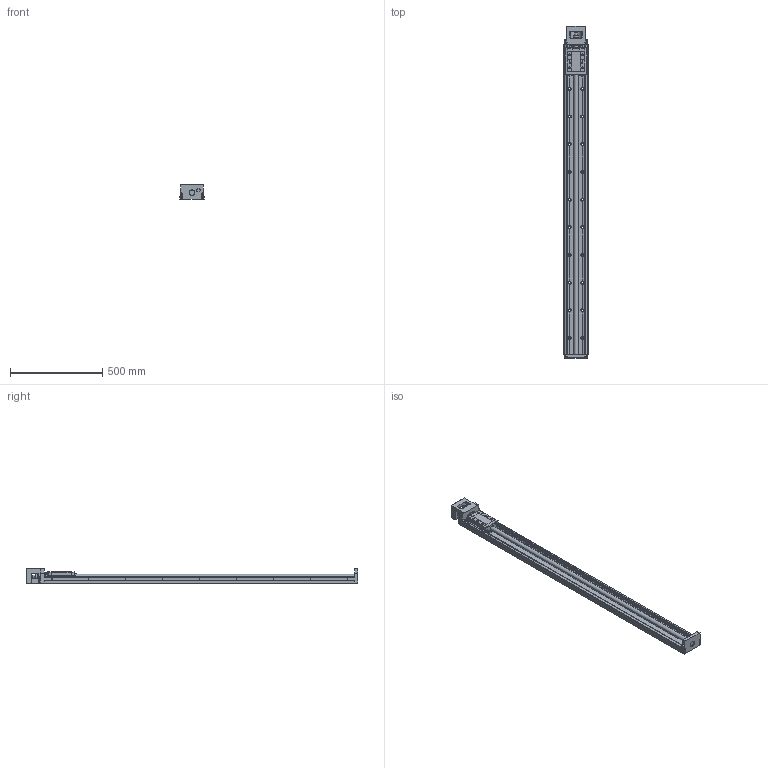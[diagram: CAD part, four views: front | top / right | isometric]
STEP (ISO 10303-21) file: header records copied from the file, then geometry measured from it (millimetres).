
FILE_DESCRIPTION(('no description'),'unknown implementation level');
FILE_NAME('KK13025P1680A1F0000_FILE_4.stp',' ',('HIWIN GmbH'),('CADClick - KiM GmbH - www.kimweb.de'),'unknown preprocess','ACIS','unknown authorization');
FILE_SCHEMA(('automotive_design'));
Length unit declared in the file: millimetre
Products named in the file (2): KK130_FILE; KK13025P1680A1F0000_FILE
Bounding box: 130 x 1798 x 83 mm (x, y, z)
Volume: 6586347.6 mm3; surface area: 948666.6 mm2
Topology: 2 solids, 7 shells, 843 faces, 2106 edges, 1365 vertices
Faces by surface type: plane 489, cylinder 308, torus 38, cone 6, sphere 2
Entity records: 49542 total; most frequent: DIRECTION 4570, CARTESIAN_POINT 4422, STYLED_ITEM 4314, PRESENTATION_STYLE_ASSIGNMENT 4314, COLOUR_RGB 4314, ORIENTED_EDGE 4208, EDGE_CURVE 2104, CURVE_STYLE 2104
